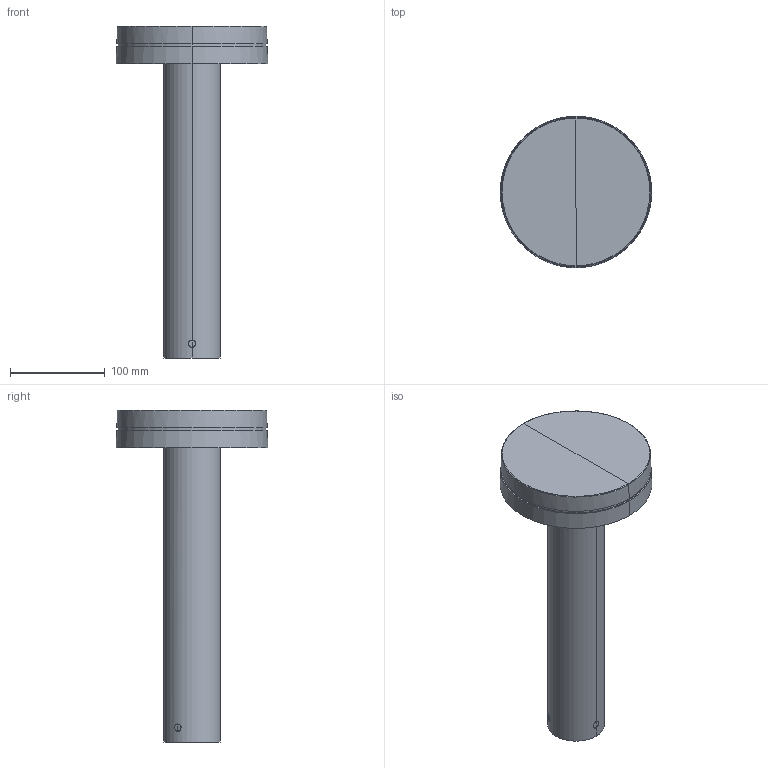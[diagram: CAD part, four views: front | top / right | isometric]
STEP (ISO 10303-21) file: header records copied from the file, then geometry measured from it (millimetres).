
FILE_DESCRIPTION(/* description */ (''),/* implementation_level */ '2;1');
FILE_NAME(/* name */ '71946.step',/* time_stamp */ '2024-09-25T11:42:56+02:00',/* author */ ('RenataManzini'),/* organization */ (''),/* preprocessor_version */ 'ST-DEVELOPER v20',/* originating_system */ 'AutoCAD Mechanical',/* authorisation */ '');
FILE_SCHEMA (('AUTOMOTIVE_DESIGN { 1 0 10303 214 3 1 1 }'));
Length unit declared in the file: millimetre
Products named in the file (2): Product; espot_350 - pieza-729907-_3D_
Assembly tree (1 placements, depth 2):
  Product
    espot_350 - pieza-729907-_3D_
Bounding box: 160 x 160 x 350 mm (x, y, z)
Volume: 906854.2 mm3; surface area: 178879.9 mm2
Topology: 5 solids, 5 shells, 98 faces, 215 edges, 129 vertices
Faces by surface type: cylinder 41, plane 37, cone 18, torus 2
Entity records: 3196 total; most frequent: CARTESIAN_POINT 980, DIRECTION 474, ORIENTED_EDGE 424, EDGE_CURVE 212, AXIS2_PLACEMENT_3D 184, VERTEX_POINT 124, EDGE_LOOP 110, LINE 106
